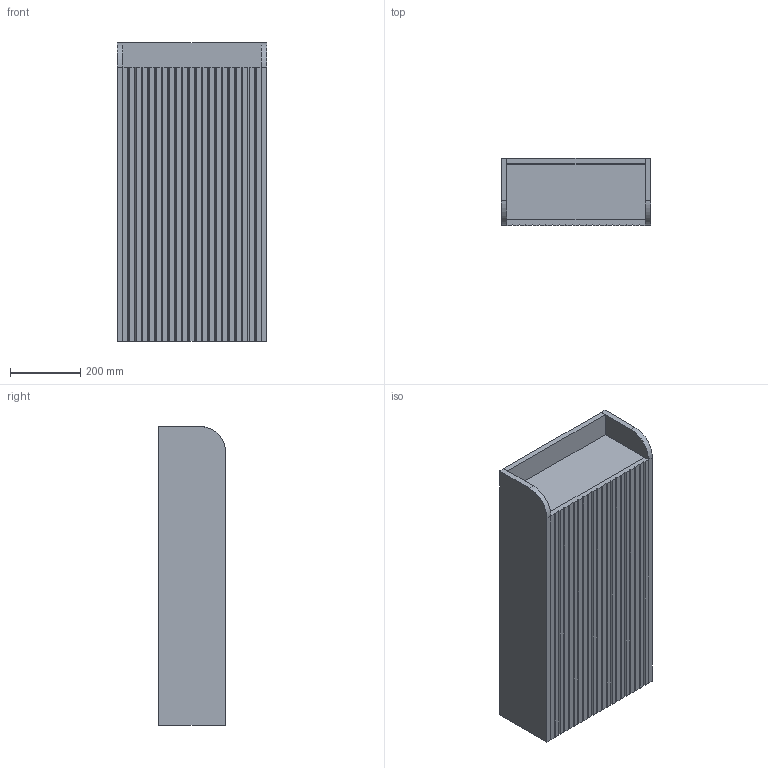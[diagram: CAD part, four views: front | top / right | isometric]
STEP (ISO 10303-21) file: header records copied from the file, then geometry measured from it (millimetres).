
FILE_DESCRIPTION(/* description */ (''),/* implementation_level */ '2;1');
FILE_NAME(/* name */ 'Sill Wall Cabinet02',/* time_stamp */ '2022-06-29T14:28:02+02:00',/* author */ (''),/* organization */ (''),/* preprocessor_version */ 'ST-DEVELOPER v16.5',/* originating_system */ 'Rhino 7.18',/* authorisation */ '');
FILE_SCHEMA (('CONFIG_CONTROL_DESIGN'));
Length unit declared in the file: millimetre
Products named in the file (1): Document
Bounding box: 425 x 190 x 850 mm (x, y, z)
Volume: 15914113 mm3; surface area: 2733835.2 mm2
Topology: 10 solids, 10 shells, 236 faces, 546 edges, 364 vertices
Faces by surface type: plane 170, cylinder 66
Entity records: 5930 total; most frequent: CARTESIAN_POINT 2076, ORIENTED_EDGE 1092, EDGE_CURVE 546, VERTEX_POINT 364, B_SPLINE_CURVE_WITH_KNOTS 324, EDGE_LOOP 270, ADVANCED_FACE 236, FACE_OUTER_BOUND 236
